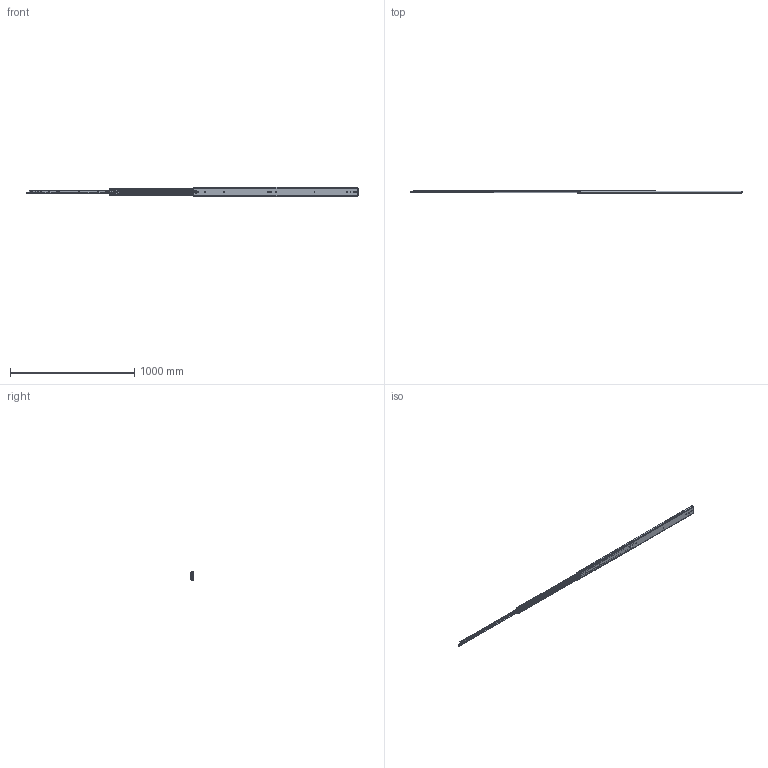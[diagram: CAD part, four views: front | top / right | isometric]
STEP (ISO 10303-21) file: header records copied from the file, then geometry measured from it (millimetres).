
FILE_DESCRIPTION((''),'2;1');
FILE_NAME('DG-76-3S-52ZUO_ASM','2023-05-11T',('jishu015'),(''),'PRO/ENGINEER BY PARAMETRIC TECHNOLOGY CORPORATION, 2010280','PRO/ENGINEER BY PARAMETRIC TECHNOLOGY CORPORATION, 2010280','');
FILE_SCHEMA(('CONFIG_CONTROL_DESIGN'));
Products named in the file (29): KP-76-04WAIKE-1816____________; 1076-WAIKEZIDANJIAO1621_; WAIK16_____________ASM; 1076XIAOZHUTIAO-2251621_; 16____________; 1076XIAOZHUTIAO-1751621__ASM; KP-76-04ZHONGGUI181611; 76CHANGGUIZHONGGUIJIAO1621____; 3X6WODIN16____________; ZHONGGUIBAIKOU16____________; PJ-76-30___________; PJ-76-03___________; 76-XIAOZHUJIA-11___________; GANGZHU-XIAO___________; ZHUJIA-XIAO____________ASM; ZHONGGUI6_____________ASM; KP-76-04NEIGUI1816____________; PJ-76-31___________; DAOGPIAN16____________; 1053-3SBANJ01___________; JIAO-11___________; 76XINSUOKOU___________; PJ-338___________; PJ-356___________; PJ-357___________; PJ-336___________; M4X4___________; NEIGUI16_____________ASM; DG-76-3S-52ZUO_ASM
Assembly tree (102 placements, depth 4):
  DG-76-3S-52ZUO_ASM
    WAIK16_____________ASM
      KP-76-04WAIKE-1816____________
      1076-WAIKEZIDANJIAO1621_  x2
    1076XIAOZHUTIAO-1751621__ASM  x2
      1076XIAOZHUTIAO-2251621_
      16____________
    ZHONGGUI6_____________ASM
      KP-76-04ZHONGGUI181611
      76CHANGGUIZHONGGUIJIAO1621____
      3X6WODIN16____________
      ZHONGGUIBAIKOU16____________
      PJ-76-30___________
      PJ-76-03___________
      ZHUJIA-XIAO____________ASM
        76-XIAOZHUJIA-11___________
        GANGZHU-XIAO___________  x50
    NEIGUI16_____________ASM
      KP-76-04NEIGUI1816____________
      PJ-76-31___________
      DAOGPIAN16____________
      1053-3SBANJ01___________
      JIAO-11___________
      76XINSUOKOU___________
      PJ-338___________
      PJ-356___________
      PJ-357___________
      PJ-336___________
      M4X4___________
Bounding box: 2667.52 x 20.7 x 75.3 mm (x, y, z)
Volume: 874186 mm3; surface area: 842938.8 mm2
Topology: 122 solids, 122 shells, 2828 faces, 8670 edges, 5463 vertices
Faces by surface type: plane 1464, cylinder 1034, sphere 203, bspline 60, cone 28, extrusion 23, torus 16
Entity records: 89790 total; most frequent: CARTESIAN_POINT 23673, ORIENTED_EDGE 14560, DIRECTION 13044, EDGE_CURVE 7280, VERTEX_POINT 4743, AXIS2_PLACEMENT_3D 4514, VECTOR 4016, LINE 3993
